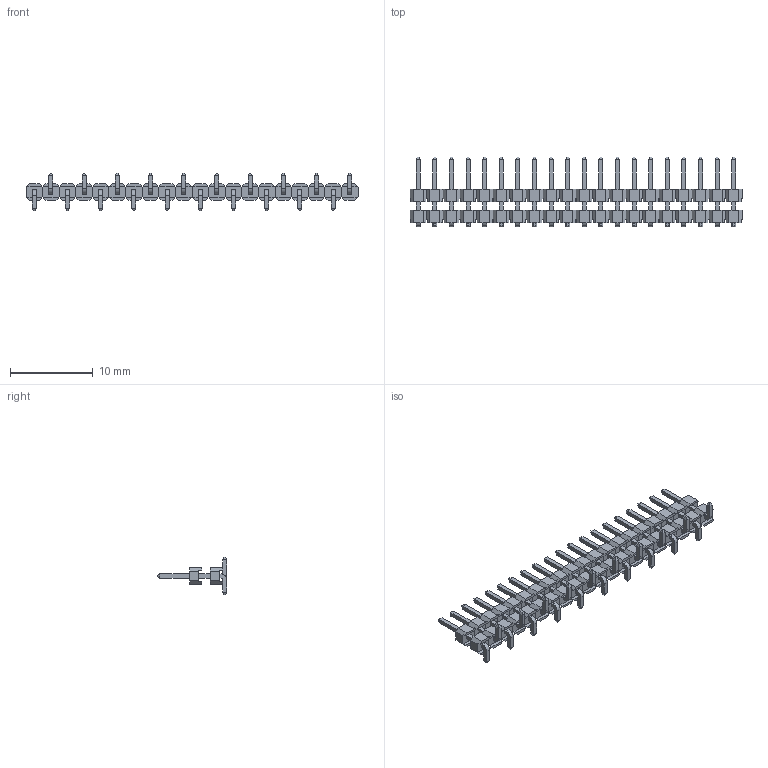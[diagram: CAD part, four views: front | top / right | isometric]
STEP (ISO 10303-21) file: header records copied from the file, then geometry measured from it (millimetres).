
FILE_DESCRIPTION(/* description */ (''),/* implementation_level */ '2;1');
FILE_NAME(/* name */ 'PZ200-1-20-S-C4.0-XX-X-DP(L8.4)-2(2.00 单排 排针 双塑 贴片-HCTL).stp',/* time_stamp */ '2026-10-23T09:39:15+08:00',/* author */ (''),/* organization */ (''),/* preprocessor_version */ 'ST-DEVELOPER v16',/* originating_system */ 'SIEMENS PLM Software NX 10.0',/* authorisation */ '');
FILE_SCHEMA (('AUTOMOTIVE_DESIGN { 1 0 10303 214 3 1 1 1 }'));
Length unit declared in the file: millimetre
Products named in the file (1): PZ200-1-N-S-C4.0-XX-X-DP(L8.4)-2(2.00 单排 排针 
双塑 贴片-HCTL) 
Bounding box: 40 x 8.4 x 4.5 mm (x, y, z)
Volume: 214.9 mm3; surface area: 1019 mm2
Topology: 20 solids, 20 shells, 1120 faces, 2880 edges, 1840 vertices
Faces by surface type: plane 1080, cylinder 40
Entity records: 37024 total; most frequent: CARTESIAN_POINT 5841, ORIENTED_EDGE 5760, DIRECTION 5202, EDGE_CURVE 2880, LINE 2800, VECTOR 2800, VERTEX_POINT 1840, AXIS2_PLACEMENT_3D 1201
